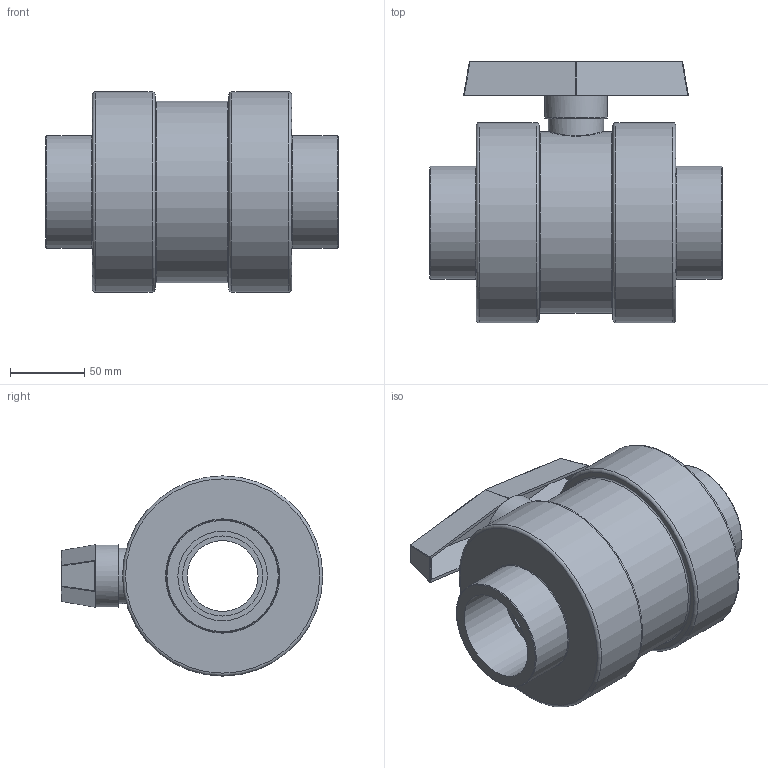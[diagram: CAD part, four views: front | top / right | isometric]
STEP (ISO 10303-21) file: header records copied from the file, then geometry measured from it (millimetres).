
FILE_DESCRIPTION (( 'STEP AP214' ), '1' );
FILE_NAME ('2 Inch -101 Series Ball Valves.STEP', '2020-10-27T09:05:02', ( '' ), ( '' ), 'SwSTEP 2.0', 'SolidWorks 2019', '' );
FILE_SCHEMA (( 'AUTOMOTIVE_DESIGN' ));
Length unit declared in the file: inch
Products named in the file (1): 2 Inch -101 Series Ball Valves
Bounding box: 196.85 x 176.21 x 134.94 mm (x, y, z)
Volume: 1662617.2 mm3; surface area: 158959.1 mm2
Topology: 2 solids, 2 shells, 82 faces, 177 edges, 101 vertices
Faces by surface type: plane 35, cylinder 29, torus 11, sphere 6, bspline 1
Full cylindrical faces by diameter (mm): 32.147 x1, 37.227 x2, 42.227 x1, 47.752 x1, 54.038 x2, 60.325 x2, 75.997 x2, 122.237 x1, 134.938 x2
Entity records: 2660 total; most frequent: CARTESIAN_POINT 987, DIRECTION 354, ORIENTED_EDGE 282, AXIS2_PLACEMENT_3D 148, EDGE_CURVE 141, EDGE_LOOP 122, FACE_OUTER_BOUND 108, VERTEX_POINT 97
